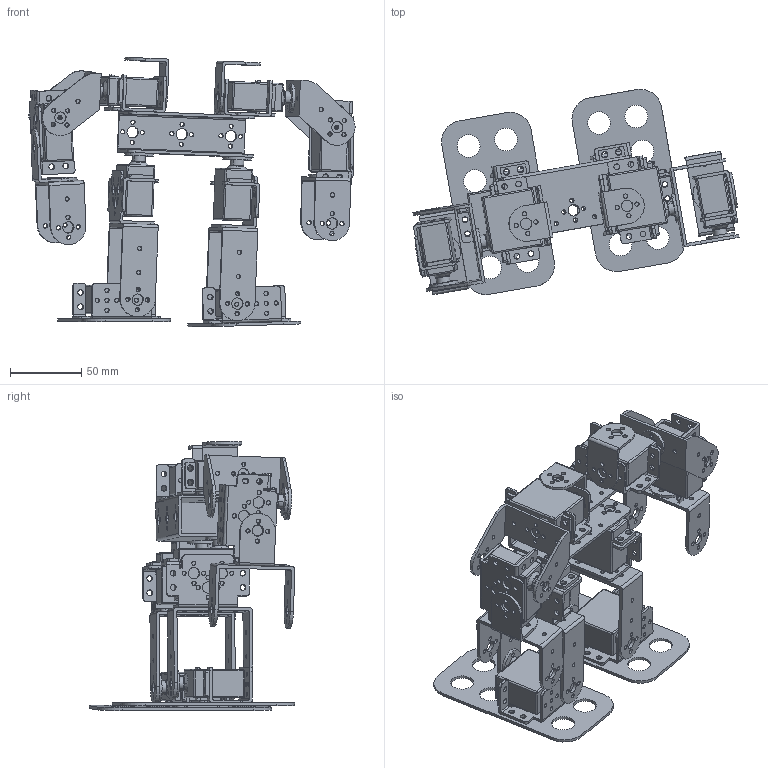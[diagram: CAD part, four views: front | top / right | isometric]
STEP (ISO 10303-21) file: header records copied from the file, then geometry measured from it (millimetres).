
FILE_DESCRIPTION(('CATIA V5 STEP Exchange'),'2;1');
FILE_NAME('D:\Documents\t.martin\Desktop\robot maker\tutos\CAO\humanoide mini\humanoide mini.stp','2017-03-08T12:21:37+00:00',('none'),('none'),'CATIA Version 5 Release 20 GA (IN-10)','CATIA V5 STEP AP203','none');
FILE_SCHEMA(('CONFIG_CONTROL_DESIGN'));
Length unit declared in the file: millimetre
Products named in the file (1): humanoide mini
Assembly tree (37 placements, depth 2):
  humanoide mini
    #58  x2
    #1883  x2
    #4088  x4
    #5049  x2
    #6707  x2
    #8490
    #12160  x8
    #15741  x8
    #17307  x8
Bounding box: 228.81 x 144.28 x 188.76 mm (x, y, z)
Volume: 390313.4 mm3; surface area: 228230.4 mm2
Topology: 37 solids, 37 shells, 3264 faces, 9226 edges, 6020 vertices
Faces by surface type: cylinder 1946, plane 1226, sphere 64, cone 24, extrusion 4
Entity records: 22221 total; most frequent: ORIENTED_EDGE 3984, CARTESIAN_POINT 3858, DIRECTION 2975, EDGE_CURVE 1992, AXIS2_PLACEMENT_3D 1490, VERTEX_POINT 1316, EDGE_LOOP 1082, CIRCLE 996
